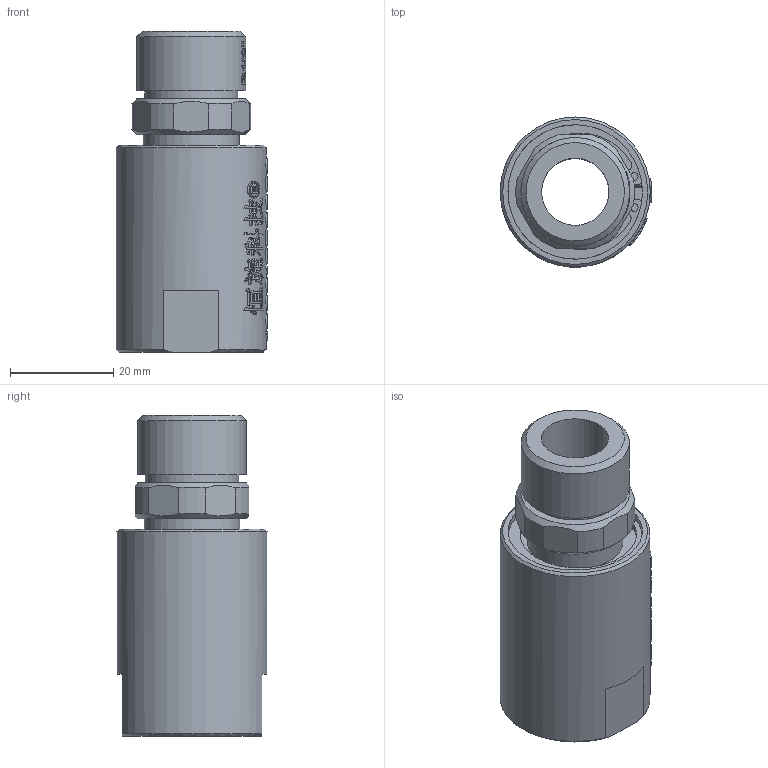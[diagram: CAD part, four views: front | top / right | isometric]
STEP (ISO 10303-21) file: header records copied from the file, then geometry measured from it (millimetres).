
FILE_DESCRIPTION(/* description */ (''),/* implementation_level */ '2;1');
FILE_NAME(/* name */ 'HQK0104(RH)-3D模型.stp',/* time_stamp */ '2025-07-08T16:27:01+08:00',/* author */ (''),/* organization */ (''),/* preprocessor_version */ 'ST-DEVELOPER v16.7',/* originating_system */ 'SIEMENS PLM Software NX 12.0',/* authorisation */ '');
FILE_SCHEMA (('AUTOMOTIVE_DESIGN { 1 0 10303 214 3 1 1 1 }'));
Length unit declared in the file: millimetre
Products named in the file (1): Admi1E18C0B725ue
Bounding box: 29.3 x 29 x 62.1 mm (x, y, z)
Volume: 23475.4 mm3; surface area: 9714.5 mm2
Topology: 1 solids, 1 shells, 869 faces, 2434 edges, 1623 vertices
Faces by surface type: extrusion 466, plane 309, cylinder 44, bspline 44, cone 6
Full cylindrical faces by diameter (mm): 1.5 x2, 13 x1, 18 x1, 18.5 x2, 21 x1, 26 x1, 29 x1
Entity records: 35623 total; most frequent: CARTESIAN_POINT 17159, ORIENTED_EDGE 4748, EDGE_CURVE 2374, B_SPLINE_CURVE_WITH_KNOTS 2333, DIRECTION 1918, VERTEX_POINT 1590, EDGE_LOOP 948, ADVANCED_FACE 866
